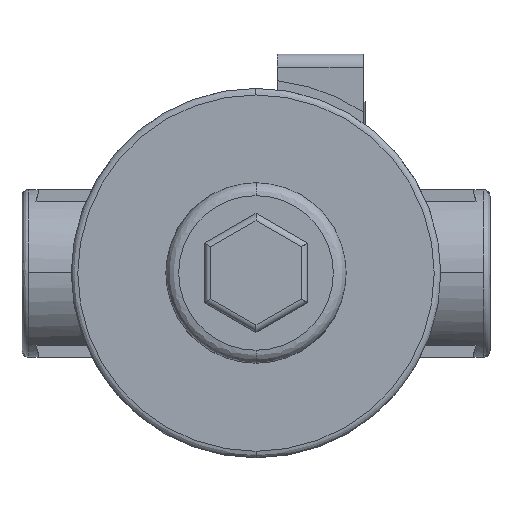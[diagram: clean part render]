
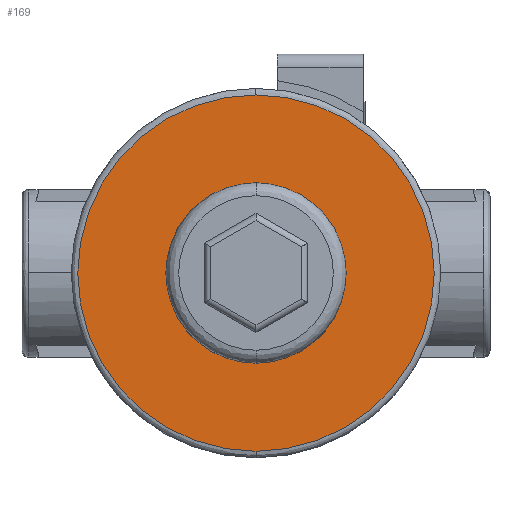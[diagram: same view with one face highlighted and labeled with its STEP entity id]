
A CAD part, top view. The second image highlights one B-rep face of the part: STEP entity #169.
In plain terms, the highlighted planar face has unit normal (0, 0, 1) as drawn and (0, 1, 0) by its records, which use the part's own axes.
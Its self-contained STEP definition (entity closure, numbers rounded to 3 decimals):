
#169=ADVANCED_FACE('',(#1179,#1180),#1178,.T.);
#1178=PLANE('',#2278);
#1179=FACE_OUTER_BOUND('',#2279,.T.);
#1180=FACE_BOUND('',#2280,.T.);
#2275=CARTESIAN_POINT('',(-81.88,49.35,-93.));
#2276=DIRECTION('',(0.,1.,0.));
#2277=DIRECTION('',(0.,0.,1.));
#2278=AXIS2_PLACEMENT_3D('',#2275,#2276,#2277);
#2279=EDGE_LOOP('',(#3309,#3310));
#2280=EDGE_LOOP('',(#3311,#3312,#3313));
#3309=ORIENTED_EDGE('',*,*,#3906,.T.);
#3310=ORIENTED_EDGE('',*,*,#3907,.T.);
#3311=ORIENTED_EDGE('',*,*,#3908,.T.);
#3312=ORIENTED_EDGE('',*,*,#3909,.T.);
#3313=ORIENTED_EDGE('',*,*,#3910,.T.);
#3906=EDGE_CURVE('',#5717,#5718,#5719,.T.);
#3907=EDGE_CURVE('',#5718,#5717,#5725,.T.);
#3908=EDGE_CURVE('',#5731,#5732,#5733,.T.);
#3909=EDGE_CURVE('',#5732,#5739,#5740,.T.);
#3910=EDGE_CURVE('',#5739,#5731,#5746,.T.);
#5717=VERTEX_POINT('',#7668);
#5718=VERTEX_POINT('',#7669);
#5719=CIRCLE('',#7673,41.5);
#5725=CIRCLE('',#7677,41.5);
#5731=VERTEX_POINT('',#7678);
#5732=VERTEX_POINT('',#7679);
#5733=CIRCLE('',#7683,21.);
#5739=VERTEX_POINT('',#7684);
#5740=CIRCLE('',#7688,21.);
#5746=CIRCLE('',#7692,21.);
#7668=CARTESIAN_POINT('',(0.,49.35,41.5));
#7669=CARTESIAN_POINT('',(0.,49.35,-41.5));
#7670=CARTESIAN_POINT('',(0.,49.35,0.));
#7671=DIRECTION('',(0.,1.,0.));
#7672=DIRECTION('',(0.,0.,1.));
#7673=AXIS2_PLACEMENT_3D('',#7670,#7671,#7672);
#7674=CARTESIAN_POINT('',(0.,49.35,0.));
#7675=DIRECTION('',(0.,1.,0.));
#7676=DIRECTION('',(0.,0.,1.));
#7677=AXIS2_PLACEMENT_3D('',#7674,#7675,#7676);
#7678=CARTESIAN_POINT('',(0.,49.35,21.));
#7679=CARTESIAN_POINT('',(-21.,49.35,0.));
#7680=CARTESIAN_POINT('',(0.,49.35,0.));
#7681=DIRECTION('',(0.,-1.,0.));
#7682=DIRECTION('',(0.,0.,1.));
#7683=AXIS2_PLACEMENT_3D('',#7680,#7681,#7682);
#7684=CARTESIAN_POINT('',(21.,49.35,-0.002));
#7685=CARTESIAN_POINT('',(0.,49.35,0.));
#7686=DIRECTION('',(0.,-1.,0.));
#7687=DIRECTION('',(0.,0.,1.));
#7688=AXIS2_PLACEMENT_3D('',#7685,#7686,#7687);
#7689=CARTESIAN_POINT('',(0.,49.35,0.));
#7690=DIRECTION('',(0.,-1.,0.));
#7691=DIRECTION('',(0.,0.,1.));
#7692=AXIS2_PLACEMENT_3D('',#7689,#7690,#7691);
